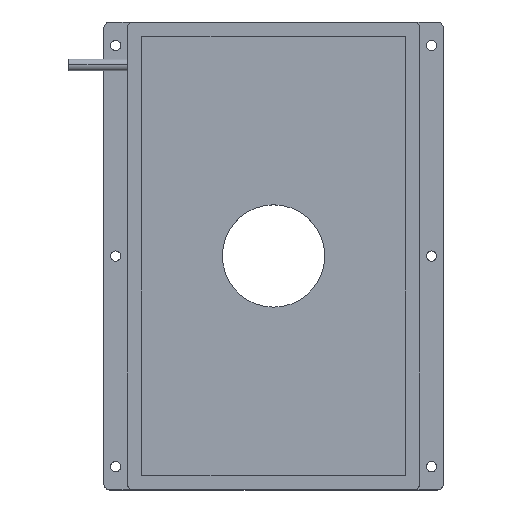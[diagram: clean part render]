
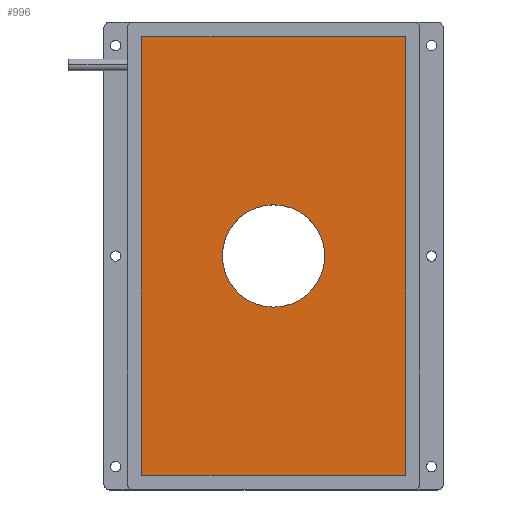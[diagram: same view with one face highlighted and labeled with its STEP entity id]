
A CAD part, top view. The second image highlights one B-rep face of the part: STEP entity #996.
In plain terms, the highlighted planar face has unit normal (0, 0, 1).
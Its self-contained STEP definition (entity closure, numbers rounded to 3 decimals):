
#22 = AXIS2_PLACEMENT_3D ( 'NONE', #838, #790, #1321 ) ;
#96 = DIRECTION ( 'NONE',  ( 0., -1., 0. ) ) ;
#104 = AXIS2_PLACEMENT_3D ( 'NONE', #717, #715, #712 ) ;
#117 = CARTESIAN_POINT ( 'NONE',  ( 45., 75., 18. ) ) ;
#153 = ORIENTED_EDGE ( 'NONE', *, *, #935, .T. ) ;
#213 = LINE ( 'NONE', #1304, #501 ) ;
#230 = CARTESIAN_POINT ( 'NONE',  ( 0., 0., 18. ) ) ;
#244 = VERTEX_POINT ( 'NONE', #117 ) ;
#248 = AXIS2_PLACEMENT_3D ( 'NONE', #230, #250, #263 ) ;
#250 = DIRECTION ( 'NONE',  ( 0., 0., 1. ) ) ;
#263 = DIRECTION ( 'NONE',  ( 1., 0., 0. ) ) ;
#293 = CIRCLE ( 'NONE', #104, 17.5 ) ;
#390 = ORIENTED_EDGE ( 'NONE', *, *, #655, .F. ) ;
#449 = FACE_OUTER_BOUND ( 'NONE', #1379, .T. ) ;
#476 = CARTESIAN_POINT ( 'NONE',  ( -45., 75., 18. ) ) ;
#501 = VECTOR ( 'NONE', #1274, 1000. ) ;
#565 = VERTEX_POINT ( 'NONE', #855 ) ;
#577 = VERTEX_POINT ( 'NONE', #830 ) ;
#607 = CIRCLE ( 'NONE', #248, 17.5 ) ;
#642 = CARTESIAN_POINT ( 'NONE',  ( 45., 75., 18. ) ) ;
#655 = EDGE_CURVE ( 'NONE', #1262, #577, #607, .T. ) ;
#689 = LINE ( 'NONE', #642, #1048 ) ;
#712 = DIRECTION ( 'NONE',  ( 1., 0., 0. ) ) ;
#715 = DIRECTION ( 'NONE',  ( 0., 0., 1. ) ) ;
#717 = CARTESIAN_POINT ( 'NONE',  ( 0., 0., 18. ) ) ;
#730 = VECTOR ( 'NONE', #96, 1000. ) ;
#773 = PLANE ( 'NONE',  #22 ) ;
#790 = DIRECTION ( 'NONE',  ( 0., 0., 1. ) ) ;
#822 = DIRECTION ( 'NONE',  ( 1., 0., 0. ) ) ;
#828 = VERTEX_POINT ( 'NONE', #1167 ) ;
#830 = CARTESIAN_POINT ( 'NONE',  ( 17.5, 0., 18. ) ) ;
#838 = CARTESIAN_POINT ( 'NONE',  ( 0., 0., 18. ) ) ;
#840 = VERTEX_POINT ( 'NONE', #936 ) ;
#842 = FACE_BOUND ( 'NONE', #1243, .T. ) ;
#855 = CARTESIAN_POINT ( 'NONE',  ( -45., 75., 18. ) ) ;
#879 = EDGE_CURVE ( 'NONE', #577, #1262, #293, .T. ) ;
#890 = CARTESIAN_POINT ( 'NONE',  ( -45., -75., 18. ) ) ;
#912 = LINE ( 'NONE', #890, #1293 ) ;
#916 = LINE ( 'NONE', #476, #730 ) ;
#935 = EDGE_CURVE ( 'NONE', #244, #565, #213, .T. ) ;
#936 = CARTESIAN_POINT ( 'NONE',  ( -45., -75., 18. ) ) ;
#996 = ADVANCED_FACE ( 'NONE', ( #842, #449 ), #773, .T. ) ;
#1028 = EDGE_CURVE ( 'NONE', #565, #840, #916, .T. ) ;
#1048 = VECTOR ( 'NONE', #1074, 1000. ) ;
#1057 = ORIENTED_EDGE ( 'NONE', *, *, #879, .F. ) ;
#1074 = DIRECTION ( 'NONE',  ( 0., 1., 0. ) ) ;
#1110 = ORIENTED_EDGE ( 'NONE', *, *, #1184, .T. ) ;
#1167 = CARTESIAN_POINT ( 'NONE',  ( 45., -75., 18. ) ) ;
#1184 = EDGE_CURVE ( 'NONE', #840, #828, #912, .T. ) ;
#1243 = EDGE_LOOP ( 'NONE', ( #390, #1057 ) ) ;
#1262 = VERTEX_POINT ( 'NONE', #1318 ) ;
#1274 = DIRECTION ( 'NONE',  ( -1., 0., 0. ) ) ;
#1281 = EDGE_CURVE ( 'NONE', #828, #244, #689, .T. ) ;
#1293 = VECTOR ( 'NONE', #822, 1000. ) ;
#1302 = ORIENTED_EDGE ( 'NONE', *, *, #1028, .T. ) ;
#1304 = CARTESIAN_POINT ( 'NONE',  ( -45., 75., 18. ) ) ;
#1318 = CARTESIAN_POINT ( 'NONE',  ( -17.5, 0., 18. ) ) ;
#1321 = DIRECTION ( 'NONE',  ( 1., 0., 0. ) ) ;
#1364 = ORIENTED_EDGE ( 'NONE', *, *, #1281, .T. ) ;
#1379 = EDGE_LOOP ( 'NONE', ( #1364, #153, #1302, #1110 ) ) ;
